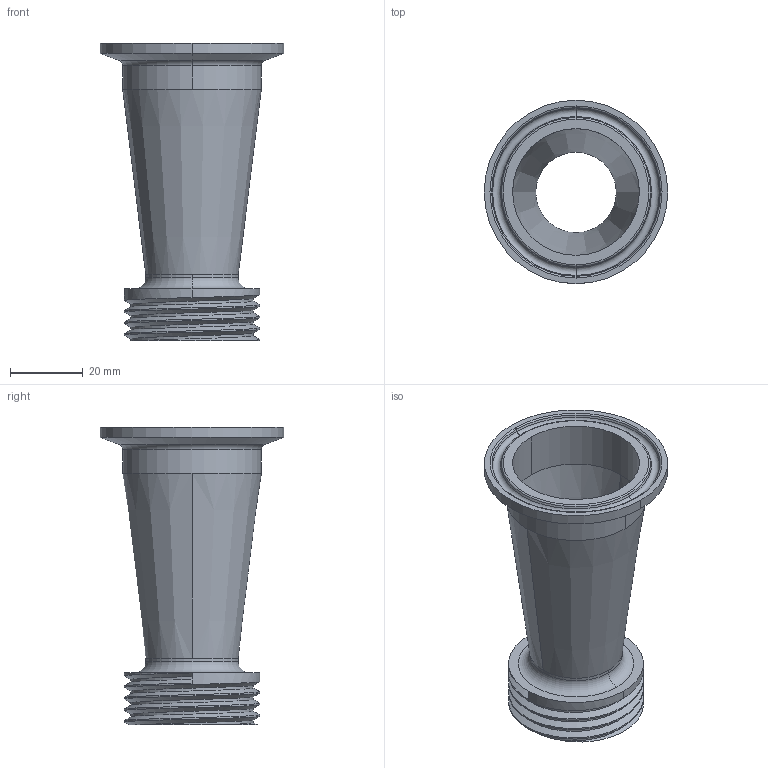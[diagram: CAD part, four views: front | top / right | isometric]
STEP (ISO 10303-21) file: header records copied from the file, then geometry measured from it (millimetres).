
FILE_DESCRIPTION (( 'STEP AP214' ), '1' );
FILE_NAME ('EG31CT 1.5X1.0.STEP', '2025-09-02T14:23:08', ( '' ), ( '' ), 'SwSTEP 2.0', 'SolidWorks 2023', '' );
FILE_SCHEMA (( 'AUTOMOTIVE_DESIGN' ));
Length unit declared in the file: inch
Products named in the file (4): EG31CT 1.5X1.0; E31WW 1.5X1.0 REV2; EG2CS 1.5 REV2; 15TR 1.0 REV1
Assembly tree (3 placements, depth 2):
  EG31CT 1.5X1.0
    E31WW 1.5X1.0 REV2
    15TR 1.0 REV1
    EG2CS 1.5 REV2
Bounding box: 50.39 x 50.39 x 81.79 mm (x, y, z)
Volume: 21834.5 mm3; surface area: 20185.5 mm2
Topology: 3 solids, 3 shells, 54 faces, 118 edges, 72 vertices
Faces by surface type: cylinder 20, cone 12, torus 10, plane 9, bspline 3
Entity records: 2695 total; most frequent: CARTESIAN_POINT 1401, DIRECTION 265, ORIENTED_EDGE 236, EDGE_CURVE 118, AXIS2_PLACEMENT_3D 116, VERTEX_POINT 72, EDGE_LOOP 62, CIRCLE 59
